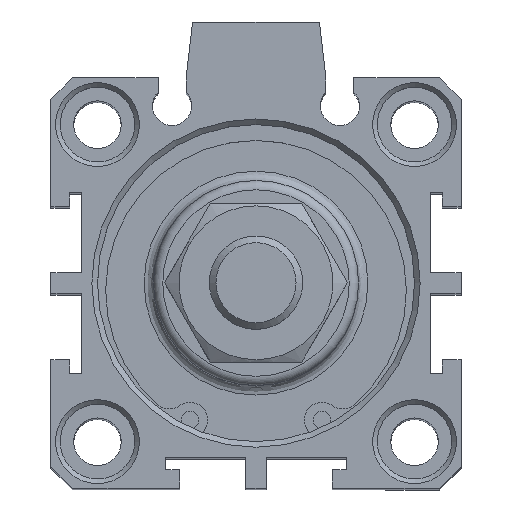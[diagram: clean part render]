
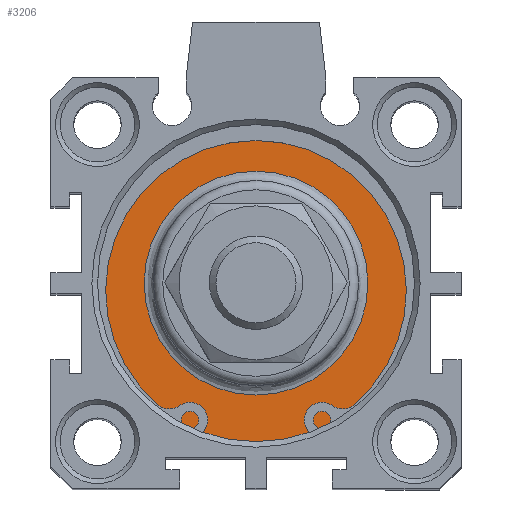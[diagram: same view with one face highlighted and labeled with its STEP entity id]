
A CAD part, top view. The second image highlights one B-rep face of the part: STEP entity #3206.
In plain terms, the highlighted planar face has unit normal (0, 0, 1).
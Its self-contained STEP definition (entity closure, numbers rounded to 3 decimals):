
#3155=CARTESIAN_POINT('',(2.273,12.598,105.8));
#3156=VERTEX_POINT('',#3155);
#3157=CARTESIAN_POINT('',(2.273,0.598,105.8));
#3158=DIRECTION('',(0.0,0.0,1.0));
#3159=DIRECTION('',(0.0,-1.0,0.0));
#3160=AXIS2_PLACEMENT_3D('',#3157,#3158,#3159);
#3161=CIRCLE('',#3160,12.);
#3162=EDGE_CURVE('',#3156,#3156,#3161,.T.);
#3187=CARTESIAN_POINT('',(2.273,14.598,105.8));
#3188=DIRECTION('',(0.0,0.0,1.0));
#3189=DIRECTION('',(1.0,0.0,0.0));
#3190=AXIS2_PLACEMENT_3D('',#3187,#3188,#3189);
#3191=PLANE('',#3190);
#3192=CARTESIAN_POINT('',(2.273,17.598,105.8));
#3193=VERTEX_POINT('',#3192);
#3194=CARTESIAN_POINT('',(2.273,0.598,105.8));
#3195=DIRECTION('',(0.0,0.0,-1.0));
#3196=DIRECTION('',(0.0,1.0,0.0));
#3197=AXIS2_PLACEMENT_3D('',#3194,#3195,#3196);
#3198=CIRCLE('',#3197,17.);
#3199=EDGE_CURVE('',#3193,#3193,#3198,.T.);
#3200=ORIENTED_EDGE('',*,*,#3199,.F.);
#3201=EDGE_LOOP('',(#3200));
#3202=FACE_OUTER_BOUND('',#3201,.T.);
#3203=ORIENTED_EDGE('',*,*,#3162,.F.);
#3204=EDGE_LOOP('',(#3203));
#3205=FACE_BOUND('',#3204,.T.);
#3206=ADVANCED_FACE('',(#3202,#3205),#3191,.T.);
